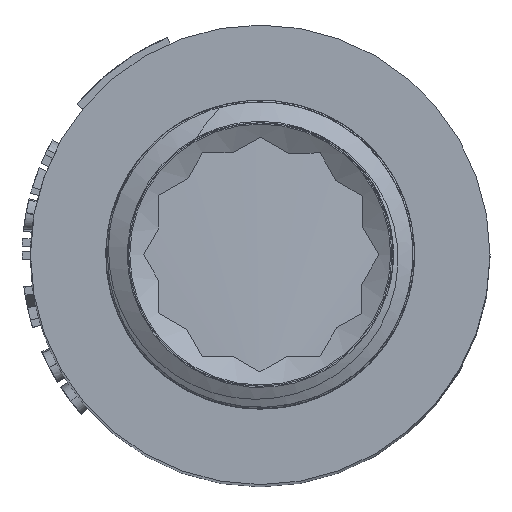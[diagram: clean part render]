
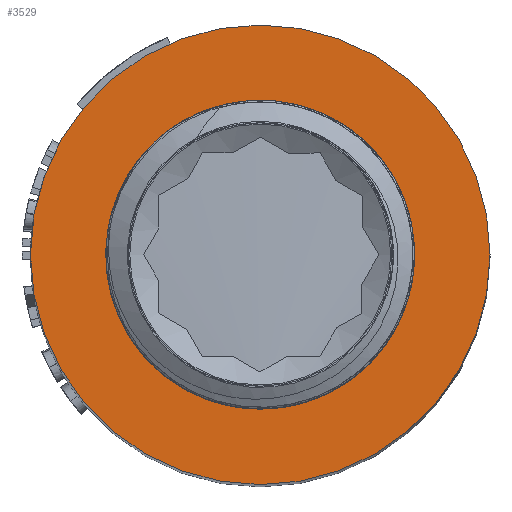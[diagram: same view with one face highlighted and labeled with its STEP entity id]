
A CAD part, top view. The second image highlights one B-rep face of the part: STEP entity #3529.
In plain terms, the highlighted planar face has unit normal (0, 0, 1).
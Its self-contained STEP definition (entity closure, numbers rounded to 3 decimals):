
#82=FACE_BOUND('',#816,.T.);
#449=PLANE('',#3752);
#601=FACE_OUTER_BOUND('',#815,.T.);
#815=EDGE_LOOP('',(#2992,#2993));
#816=EDGE_LOOP('',(#2994,#2995));
#1272=CIRCLE('',#3610,7.825);
#1275=CIRCLE('',#3613,7.825);
#1294=CIRCLE('',#3649,13.65);
#1295=CIRCLE('',#3650,13.65);
#1361=VERTEX_POINT('',#4456);
#1362=VERTEX_POINT('',#4457);
#1405=VERTEX_POINT('',#4697);
#1406=VERTEX_POINT('',#4698);
#1721=EDGE_CURVE('',#1361,#1362,#1272,.T.);
#1725=EDGE_CURVE('',#1362,#1361,#1275,.T.);
#1786=EDGE_CURVE('',#1405,#1406,#1294,.T.);
#1787=EDGE_CURVE('',#1406,#1405,#1295,.T.);
#2992=ORIENTED_EDGE('',*,*,#1786,.T.);
#2993=ORIENTED_EDGE('',*,*,#1787,.T.);
#2994=ORIENTED_EDGE('',*,*,#1721,.F.);
#2995=ORIENTED_EDGE('',*,*,#1725,.F.);
#3529=ADVANCED_FACE('',(#601,#82),#449,.T.);
#3610=AXIS2_PLACEMENT_3D('',#4458,#3829,#3830);
#3613=AXIS2_PLACEMENT_3D('',#4464,#3836,#3837);
#3649=AXIS2_PLACEMENT_3D('',#4699,#3939,#3940);
#3650=AXIS2_PLACEMENT_3D('',#4700,#3941,#3942);
#3752=AXIS2_PLACEMENT_3D('',#7188,#4275,#4276);
#3829=DIRECTION('center_axis',(0.,0.,1.));
#3830=DIRECTION('ref_axis',(1.,0.,0.));
#3836=DIRECTION('center_axis',(0.,0.,1.));
#3837=DIRECTION('ref_axis',(1.,0.,0.));
#3939=DIRECTION('center_axis',(0.,0.,1.));
#3940=DIRECTION('ref_axis',(1.,0.,0.));
#3941=DIRECTION('center_axis',(0.,0.,1.));
#3942=DIRECTION('ref_axis',(1.,0.,0.));
#4275=DIRECTION('center_axis',(0.,0.,1.));
#4276=DIRECTION('ref_axis',(1.,0.,0.));
#4456=CARTESIAN_POINT('',(0.,7.825,-10.));
#4457=CARTESIAN_POINT('',(0.,-7.825,-10.));
#4458=CARTESIAN_POINT('Origin',(0.,0.,-10.));
#4464=CARTESIAN_POINT('Origin',(0.,0.,-10.));
#4697=CARTESIAN_POINT('',(0.,-13.65,-10.));
#4698=CARTESIAN_POINT('',(0.,13.65,-10.));
#4699=CARTESIAN_POINT('Origin',(0.,0.,-10.));
#4700=CARTESIAN_POINT('Origin',(0.,0.,-10.));
#7188=CARTESIAN_POINT('Origin',(0.,-9.17,-10.));
